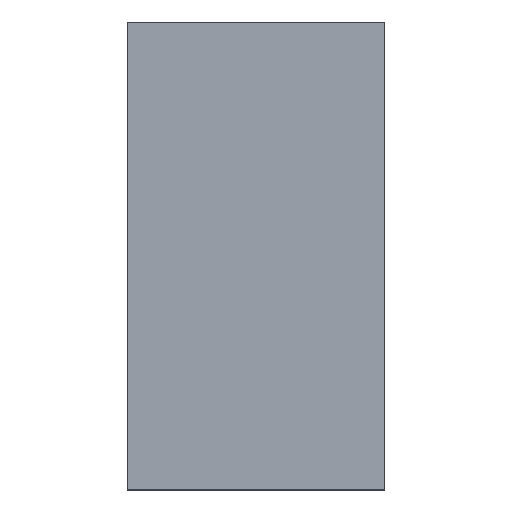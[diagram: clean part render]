
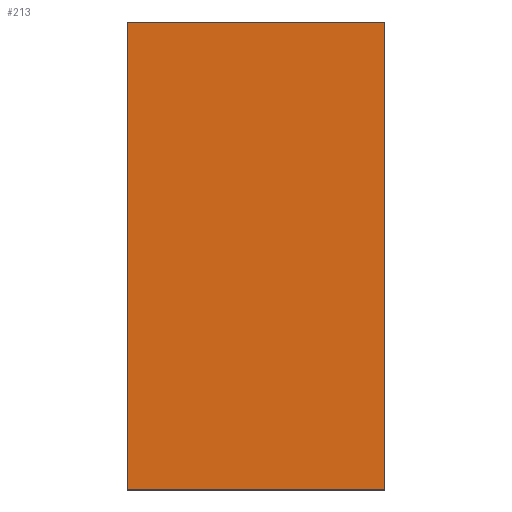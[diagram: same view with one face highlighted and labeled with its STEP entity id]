
A CAD part, top view. The second image highlights one B-rep face of the part: STEP entity #213.
In plain terms, the highlighted planar face has unit normal (0, 0, 1).
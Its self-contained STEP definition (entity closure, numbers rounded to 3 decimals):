
#24 = VERTEX_POINT('',#25);
#25 = CARTESIAN_POINT('',(-24.,-35.,0.1));
#32 = PLANE('',#33);
#33 = AXIS2_PLACEMENT_3D('',#34,#35,#36);
#34 = CARTESIAN_POINT('',(-24.,-35.,-2.1));
#35 = DIRECTION('',(1.,0.,-0.));
#36 = DIRECTION('',(0.,0.,1.));
#44 = PLANE('',#45);
#45 = AXIS2_PLACEMENT_3D('',#46,#47,#48);
#46 = CARTESIAN_POINT('',(-24.,-35.,-2.1));
#47 = DIRECTION('',(-0.,1.,0.));
#48 = DIRECTION('',(0.,0.,1.));
#85 = VERTEX_POINT('',#86);
#86 = CARTESIAN_POINT('',(-24.,-15.,0.1));
#100 = PLANE('',#101);
#101 = AXIS2_PLACEMENT_3D('',#102,#103,#104);
#102 = CARTESIAN_POINT('',(-24.,-15.,-2.1));
#103 = DIRECTION('',(-0.,1.,0.));
#104 = DIRECTION('',(0.,0.,1.));
#112 = EDGE_CURVE('',#24,#85,#113,.T.);
#113 = SURFACE_CURVE('',#114,(#118,#125),.PCURVE_S1.);
#114 = LINE('',#115,#116);
#115 = CARTESIAN_POINT('',(-24.,-35.,0.1));
#116 = VECTOR('',#117,1.);
#117 = DIRECTION('',(-0.,1.,0.));
#118 = PCURVE('',#32,#119);
#119 = DEFINITIONAL_REPRESENTATION('',(#120),#124);
#120 = LINE('',#121,#122);
#121 = CARTESIAN_POINT('',(2.2,0.));
#122 = VECTOR('',#123,1.);
#123 = DIRECTION('',(0.,-1.));
#124 = ( GEOMETRIC_REPRESENTATION_CONTEXT(2) 
PARAMETRIC_REPRESENTATION_CONTEXT() REPRESENTATION_CONTEXT('2D SPACE',''
  ) );
#125 = PCURVE('',#126,#131);
#126 = PLANE('',#127);
#127 = AXIS2_PLACEMENT_3D('',#128,#129,#130);
#128 = CARTESIAN_POINT('',(-24.,-35.,0.1));
#129 = DIRECTION('',(0.,0.,1.));
#130 = DIRECTION('',(1.,0.,-0.));
#131 = DEFINITIONAL_REPRESENTATION('',(#132),#136);
#132 = LINE('',#133,#134);
#133 = CARTESIAN_POINT('',(0.,0.));
#134 = VECTOR('',#135,1.);
#135 = DIRECTION('',(0.,1.));
#136 = ( GEOMETRIC_REPRESENTATION_CONTEXT(2) 
PARAMETRIC_REPRESENTATION_CONTEXT() REPRESENTATION_CONTEXT('2D SPACE',''
  ) );
#165 = EDGE_CURVE('',#24,#166,#168,.T.);
#166 = VERTEX_POINT('',#167);
#167 = CARTESIAN_POINT('',(-13.,-35.,0.1));
#168 = SURFACE_CURVE('',#169,(#173,#180),.PCURVE_S1.);
#169 = LINE('',#170,#171);
#170 = CARTESIAN_POINT('',(-24.,-35.,0.1));
#171 = VECTOR('',#172,1.);
#172 = DIRECTION('',(1.,0.,-0.));
#173 = PCURVE('',#44,#174);
#174 = DEFINITIONAL_REPRESENTATION('',(#175),#179);
#175 = LINE('',#176,#177);
#176 = CARTESIAN_POINT('',(2.2,0.));
#177 = VECTOR('',#178,1.);
#178 = DIRECTION('',(0.,1.));
#179 = ( GEOMETRIC_REPRESENTATION_CONTEXT(2) 
PARAMETRIC_REPRESENTATION_CONTEXT() REPRESENTATION_CONTEXT('2D SPACE',''
  ) );
#180 = PCURVE('',#126,#181);
#181 = DEFINITIONAL_REPRESENTATION('',(#182),#186);
#182 = LINE('',#183,#184);
#183 = CARTESIAN_POINT('',(0.,0.));
#184 = VECTOR('',#185,1.);
#185 = DIRECTION('',(1.,0.));
#186 = ( GEOMETRIC_REPRESENTATION_CONTEXT(2) 
PARAMETRIC_REPRESENTATION_CONTEXT() REPRESENTATION_CONTEXT('2D SPACE',''
  ) );
#202 = PLANE('',#203);
#203 = AXIS2_PLACEMENT_3D('',#204,#205,#206);
#204 = CARTESIAN_POINT('',(-13.,-35.,-2.1));
#205 = DIRECTION('',(1.,0.,-0.));
#206 = DIRECTION('',(0.,0.,1.));
#213 = ADVANCED_FACE('',(#214),#126,.T.);
#214 = FACE_BOUND('',#215,.T.);
#215 = EDGE_LOOP('',(#216,#217,#218,#241));
#216 = ORIENTED_EDGE('',*,*,#112,.F.);
#217 = ORIENTED_EDGE('',*,*,#165,.T.);
#218 = ORIENTED_EDGE('',*,*,#219,.T.);
#219 = EDGE_CURVE('',#166,#220,#222,.T.);
#220 = VERTEX_POINT('',#221);
#221 = CARTESIAN_POINT('',(-13.,-15.,0.1));
#222 = SURFACE_CURVE('',#223,(#227,#234),.PCURVE_S1.);
#223 = LINE('',#224,#225);
#224 = CARTESIAN_POINT('',(-13.,-35.,0.1));
#225 = VECTOR('',#226,1.);
#226 = DIRECTION('',(-0.,1.,0.));
#227 = PCURVE('',#126,#228);
#228 = DEFINITIONAL_REPRESENTATION('',(#229),#233);
#229 = LINE('',#230,#231);
#230 = CARTESIAN_POINT('',(11.,0.));
#231 = VECTOR('',#232,1.);
#232 = DIRECTION('',(0.,1.));
#233 = ( GEOMETRIC_REPRESENTATION_CONTEXT(2) 
PARAMETRIC_REPRESENTATION_CONTEXT() REPRESENTATION_CONTEXT('2D SPACE',''
  ) );
#234 = PCURVE('',#202,#235);
#235 = DEFINITIONAL_REPRESENTATION('',(#236),#240);
#236 = LINE('',#237,#238);
#237 = CARTESIAN_POINT('',(2.2,0.));
#238 = VECTOR('',#239,1.);
#239 = DIRECTION('',(0.,-1.));
#240 = ( GEOMETRIC_REPRESENTATION_CONTEXT(2) 
PARAMETRIC_REPRESENTATION_CONTEXT() REPRESENTATION_CONTEXT('2D SPACE',''
  ) );
#241 = ORIENTED_EDGE('',*,*,#242,.F.);
#242 = EDGE_CURVE('',#85,#220,#243,.T.);
#243 = SURFACE_CURVE('',#244,(#248,#255),.PCURVE_S1.);
#244 = LINE('',#245,#246);
#245 = CARTESIAN_POINT('',(-24.,-15.,0.1));
#246 = VECTOR('',#247,1.);
#247 = DIRECTION('',(1.,0.,-0.));
#248 = PCURVE('',#126,#249);
#249 = DEFINITIONAL_REPRESENTATION('',(#250),#254);
#250 = LINE('',#251,#252);
#251 = CARTESIAN_POINT('',(0.,20.));
#252 = VECTOR('',#253,1.);
#253 = DIRECTION('',(1.,0.));
#254 = ( GEOMETRIC_REPRESENTATION_CONTEXT(2) 
PARAMETRIC_REPRESENTATION_CONTEXT() REPRESENTATION_CONTEXT('2D SPACE',''
  ) );
#255 = PCURVE('',#100,#256);
#256 = DEFINITIONAL_REPRESENTATION('',(#257),#261);
#257 = LINE('',#258,#259);
#258 = CARTESIAN_POINT('',(2.2,0.));
#259 = VECTOR('',#260,1.);
#260 = DIRECTION('',(0.,1.));
#261 = ( GEOMETRIC_REPRESENTATION_CONTEXT(2) 
PARAMETRIC_REPRESENTATION_CONTEXT() REPRESENTATION_CONTEXT('2D SPACE',''
  ) );
